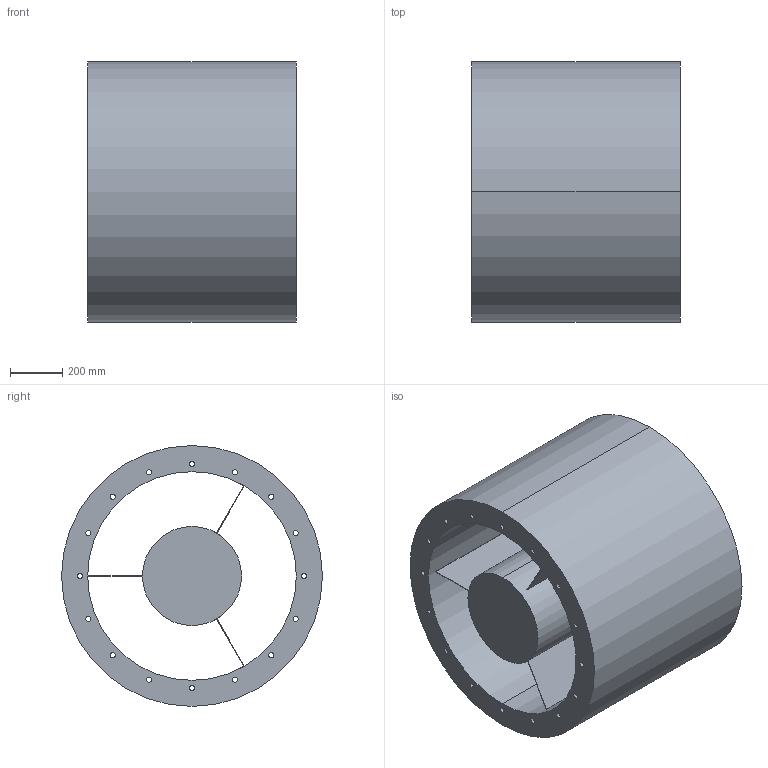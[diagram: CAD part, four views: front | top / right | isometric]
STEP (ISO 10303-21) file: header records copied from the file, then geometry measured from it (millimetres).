
FILE_DESCRIPTION(('STEP AP214'),'1');
FILE_NAME('accessory_5211815200.stp','2017-10-09T11:37:58',('TraceParts'),('TraceParts S.A.'),'Spatial InterOp 3D',' ',' ');
FILE_SCHEMA(('automotive_design'));
Length unit declared in the file: millimetre
Products named in the file (1): accessory_5211815200
Bounding box: 800 x 1000 x 1000 mm (x, y, z)
Volume: 301653672.6 mm3; surface area: 7566169.6 mm2
Topology: 1 solids, 1 shells, 56 faces, 155 edges, 103 vertices
Faces by surface type: cylinder 38, plane 16, torus 2
Entity records: 2384 total; most frequent: DIRECTION 362, CARTESIAN_POINT 315, ORIENTED_EDGE 310, EDGE_CURVE 155, AXIS2_PLACEMENT_3D 150, VERTEX_POINT 103, EDGE_LOOP 96, CIRCLE 93
